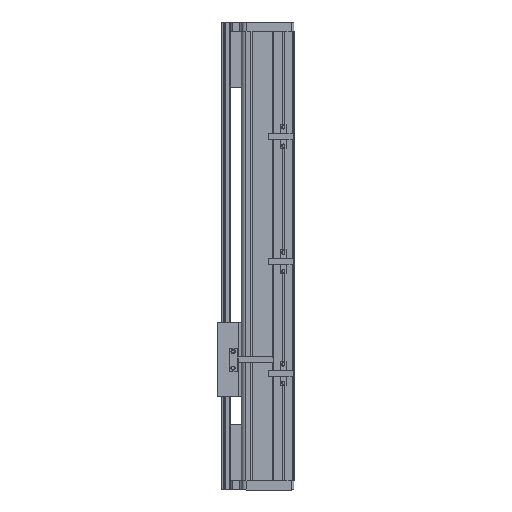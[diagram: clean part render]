
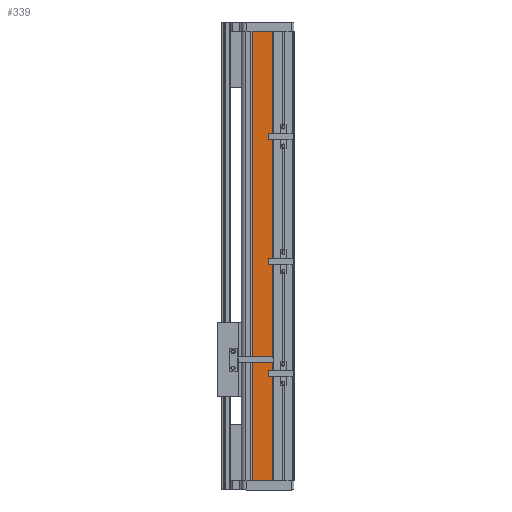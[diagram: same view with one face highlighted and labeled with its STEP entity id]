
A CAD part, left-side view. The second image highlights one B-rep face of the part: STEP entity #339.
In plain terms, the highlighted planar face has unit normal (-1, 0, 0).
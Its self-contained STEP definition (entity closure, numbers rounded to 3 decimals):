
#339 = ADVANCED_FACE ( 'NONE', ( #13444 ), #2662, .F. ) ;
#1046 = EDGE_CURVE ( 'NONE', #7561, #9958, #2085, .T. ) ;
#1476 = DIRECTION ( 'NONE',  ( 0., -1., 0. ) ) ;
#2085 = LINE ( 'NONE', #17302, #18831 ) ;
#2479 = LINE ( 'NONE', #4547, #14578 ) ;
#2662 = PLANE ( 'NONE',  #13177 ) ;
#2832 = CARTESIAN_POINT ( 'NONE',  ( -49.996, -10.095, 0. ) ) ;
#4547 = CARTESIAN_POINT ( 'NONE',  ( -49.996, 0., 483. ) ) ;
#4613 = VERTEX_POINT ( 'NONE', #11479 ) ;
#5747 = DIRECTION ( 'NONE',  ( 0., 0., -1. ) ) ;
#7561 = VERTEX_POINT ( 'NONE', #14978 ) ;
#8589 = VERTEX_POINT ( 'NONE', #2832 ) ;
#8595 = ORIENTED_EDGE ( 'NONE', *, *, #1046, .T. ) ;
#9746 = DIRECTION ( 'NONE',  ( 1., 0., 0. ) ) ;
#9958 = VERTEX_POINT ( 'NONE', #12277 ) ;
#10329 = ORIENTED_EDGE ( 'NONE', *, *, #16554, .F. ) ;
#10464 = CARTESIAN_POINT ( 'NONE',  ( -49.996, 0., 0. ) ) ;
#11322 = LINE ( 'NONE', #16847, #15553 ) ;
#11479 = CARTESIAN_POINT ( 'NONE',  ( -49.996, -10.095, 483. ) ) ;
#11696 = CARTESIAN_POINT ( 'NONE',  ( -49.996, 0., 483. ) ) ;
#12277 = CARTESIAN_POINT ( 'NONE',  ( -49.996, 11.696, 0. ) ) ;
#12411 = EDGE_LOOP ( 'NONE', ( #16824, #16268, #10329, #8595 ) ) ;
#12677 = EDGE_CURVE ( 'NONE', #9958, #8589, #17629, .T. ) ;
#13177 = AXIS2_PLACEMENT_3D ( 'NONE', #11696, #9746, #16320 ) ;
#13415 = VECTOR ( 'NONE', #15272, 1000. ) ;
#13444 = FACE_OUTER_BOUND ( 'NONE', #12411, .T. ) ;
#14578 = VECTOR ( 'NONE', #1476, 1000. ) ;
#14978 = CARTESIAN_POINT ( 'NONE',  ( -49.996, 11.696, 483. ) ) ;
#15272 = DIRECTION ( 'NONE',  ( 0., -1., 0. ) ) ;
#15553 = VECTOR ( 'NONE', #5747, 1000. ) ;
#16268 = ORIENTED_EDGE ( 'NONE', *, *, #17067, .F. ) ;
#16320 = DIRECTION ( 'NONE',  ( 0., 0., -1. ) ) ;
#16554 = EDGE_CURVE ( 'NONE', #7561, #4613, #2479, .T. ) ;
#16824 = ORIENTED_EDGE ( 'NONE', *, *, #12677, .T. ) ;
#16847 = CARTESIAN_POINT ( 'NONE',  ( -49.996, -10.095, 483. ) ) ;
#17067 = EDGE_CURVE ( 'NONE', #4613, #8589, #11322, .T. ) ;
#17225 = DIRECTION ( 'NONE',  ( 0., 0., -1. ) ) ;
#17302 = CARTESIAN_POINT ( 'NONE',  ( -49.996, 11.696, 483. ) ) ;
#17629 = LINE ( 'NONE', #10464, #13415 ) ;
#18831 = VECTOR ( 'NONE', #17225, 1000. ) ;
